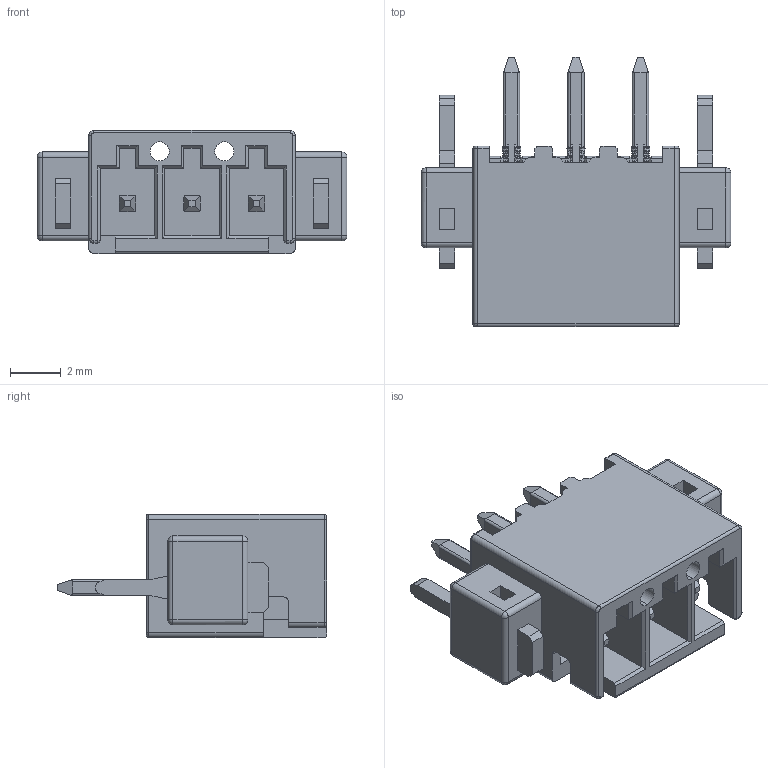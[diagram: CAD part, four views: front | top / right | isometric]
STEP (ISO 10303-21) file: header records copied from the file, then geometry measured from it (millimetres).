
FILE_DESCRIPTION((''),'2;1');
FILE_NAME('OQ254-3P','2022-06-09T',('renkang.li'),(''),'CREO PARAMETRIC BY PTC INC, 2016260','CREO PARAMETRIC BY PTC INC, 2016260','');
FILE_SCHEMA(('CONFIG_CONTROL_DESIGN'));
Length unit declared in the file: millimetre
Products named in the file (1): OQ254-3P
Bounding box: 12.2 x 10.6 x 4.85 mm (x, y, z)
Volume: 209.5 mm3; surface area: 611.1 mm2
Topology: 1 solids, 25 shells, 1462 faces, 3466 edges, 1956 vertices
Faces by surface type: plane 1344, cylinder 84, cone 18, sphere 8, bspline 8
Entity records: 40349 total; most frequent: CARTESIAN_POINT 7293, ORIENTED_EDGE 6880, DIRECTION 6432, EDGE_CURVE 3440, VECTOR 3212, LINE 3212, VERTEX_POINT 1956, AXIS2_PLACEMENT_3D 1610
